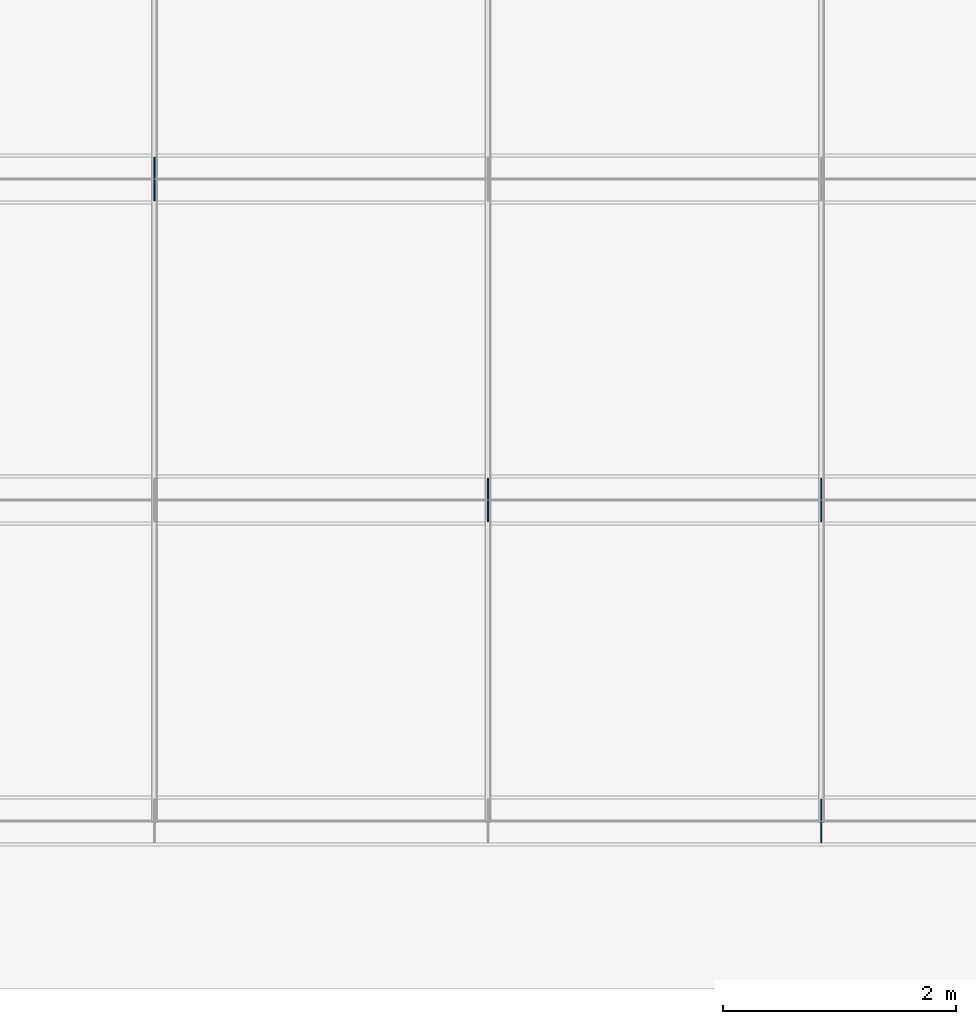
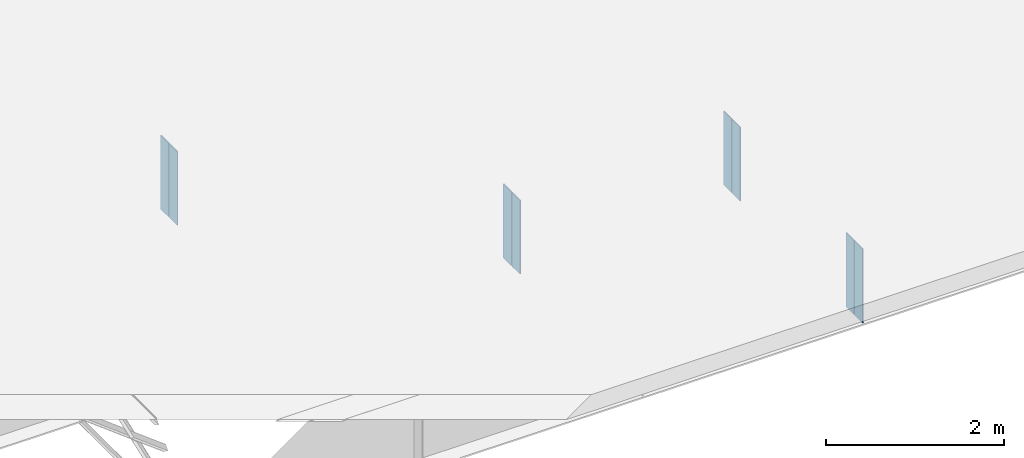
# One storey, part 6 of 12: 8 plates.
"""IFC4 building model written with IfcOpenShell, lengths in metres."""

from ifc_helpers import new_model, si_unit, frame, origin, origin_with_axes, origin_2d_with_axis, place, context, subcontext, project, spatial, rectangle, extrude, element, save


model = new_model("IFC4")

# Units and contexts
model_context = context("Model", 3, precision=1e-05, world=origin())
body_context = subcontext(model_context, "Body", "Model", "MODEL_VIEW")
ifc_project = project(units=[si_unit("LENGTHUNIT", "METRE"), si_unit("AREAUNIT", "SQUARE_METRE"), si_unit("VOLUMEUNIT", "CUBIC_METRE"), si_unit("PLANEANGLEUNIT", "RADIAN")], contexts=[model_context])

# Site, building, storey
site_placement = place(None, origin_with_axes())
site = spatial("IfcSite", under=ifc_project, at=site_placement, Name="Default Site")
building_placement = place(site_placement, origin_with_axes())
building = spatial("IfcBuilding", under=site, at=building_placement, Name="Bridge Structure")
storey_placement = place(building_placement, origin_with_axes())
storey = spatial("IfcBuildingStorey", under=building, at=storey_placement, Name="Superstructure")

# Plates
for number, where, z_axis, x_axis, name in (
    (1, (14.285, -5.4037500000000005, -0.507), (0.0, 0.0, 1.0), (1.0, 0.0, 0.0), "Intermediate Stiffener 1"),
    (2, (14.285, -5.59625, -0.507), (0.0, 0.0, 1.0), (1.0, 0.0, 0.0), "Intermediate Stiffener 1"),
    (3, (11.428, -2.65375, -0.507), (0.0, 0.0, 1.0), (1.0, 0.0, 0.0), "Intermediate Stiffener 2"),
    (4, (11.428, -2.84625, -0.507), (0.0, 0.0, 1.0), (1.0, 0.0, 0.0), "Intermediate Stiffener 2"),
    (5, (14.285, -2.65375, -0.507), (0.0, 0.0, 1.0), (1.0, 0.0, 0.0), "Intermediate Stiffener 2"),
    (6, (14.285, -2.84625, -0.507), (0.0, 0.0, 1.0), (1.0, 0.0, 0.0), "Intermediate Stiffener 2"),
    (7, (8.571, 0.09625, -0.507), (0.0, 0.0, 1.0), (1.0, 0.0, 0.0), "Intermediate Stiffener 3"),
    (8, (8.571, -0.09625, -0.507), (0.0, 0.0, 1.0), (1.0, 0.0, 0.0), "Intermediate Stiffener 3"),
):
    element("IfcPlate", number, at=place(storey_placement, frame(where, z_axis=z_axis, x_axis=x_axis)), inside=storey, Name=name, context=body_context, shape_type="SweptSolid", body=[
        extrude(rectangle(XDim=0.012, YDim=0.1825, at=origin_2d_with_axis()), origin_with_axes(), (0.0, 0.0, 1.0), 1.014),
    ])

save(model, "model.ifc")
